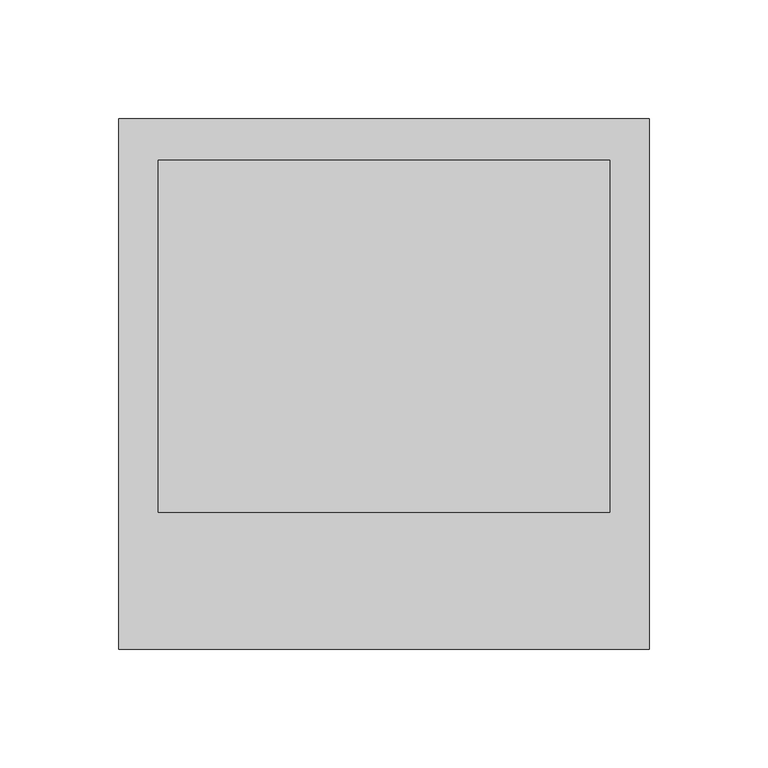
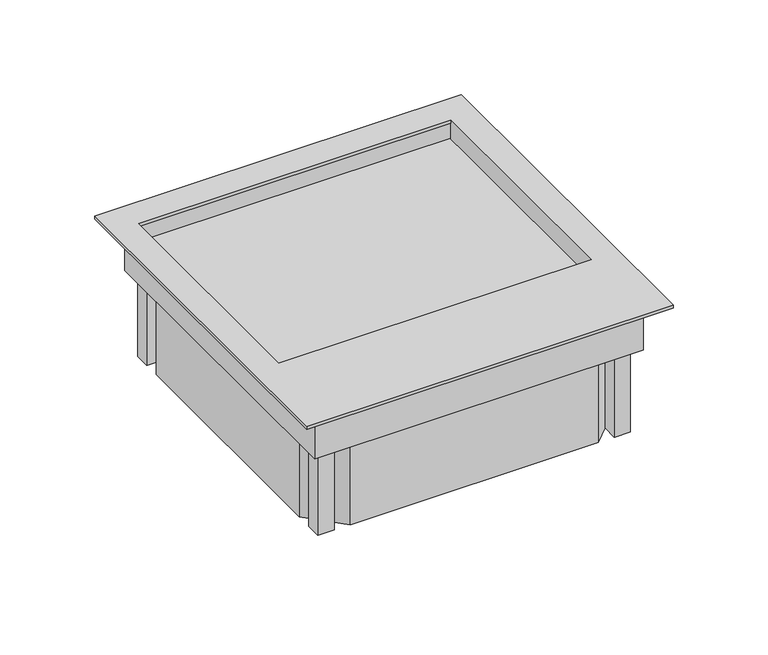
"""IFC4 building model written with IfcOpenShell, lengths in millimetres: proxy geometry, Electrical_Installation_Hager_VE-EE_Service-unit-VQ06-made-of-stainless-steel : Electrical_Installation_Hager_VE-EE_Service-unit-VQ06-made-of-stainless-steel."""

from ifc_helpers import new_model, si_unit, frame, origin, place, context, project, spatial, polyline, outline, extrude, faceted_brep, source, transform, mapped, element, save


def electrical_fixtures_3c529a4b(model_context):
    return source(origin(), model_context, "Body", "SolidModel", [
        faceted_brep([(100.0, 100.0, -30.0), (100.0, -100.0, -30.0), (-100.0, -100.0, -30.0), (-100.0, 100.0, -30.0), (95.0, -85.25, -30.0), (95.0, 85.25, -30.0), (95.0, 95.0, -30.0), (85.25, 95.0, -30.0), (-85.25, 95.0, -30.0), (-95.0, 95.0, -30.0), (-95.0, 85.25, -30.0), (-95.0, -85.25, -30.0), (-95.0, -95.0, -30.0), (-85.25, -95.0, -30.0), (85.25, -95.0, -30.0), (95.0, -95.0, -30.0), (-100.0, 100.0, 0.0), (100.0, 100.0, 0.0), (-100.0, -100.0, 0.0), (100.0, -100.0, 0.0), (95.0, 95.0, -30.0), (95.0, 95.0, 0.0), (-95.0, 95.0, 0.0), (-95.0, 95.0, -30.0), (95.0, -95.0, -10.0), (-95.0, -95.0, -10.0), (-95.0, -53.875, -10.0), (95.0, -53.875, -10.0), (95.0, -95.0, -30.0), (-95.0, -95.0, -30.0), (111.5, 111.5, 2.0), (-111.5, 111.5, 2.0), (-111.5, -111.5, 2.0), (111.5, -111.5, 2.0), (95.0, 94.0, 2.0), (95.0, -53.875, 2.0), (-95.0, -53.875, 2.0), (-95.0, 94.0, 2.0), (95.0, 94.0, 0.0), (-95.0, 94.0, 0.0), (111.5, 111.5, 0.0), (111.5, -111.5, 0.0), (-111.5, -111.5, 0.0), (-111.5, 111.5, 0.0), (-85.25, 85.25, -30.0), (85.25, 85.25, -30.0), (-85.25, -85.25, -30.0), (85.25, -85.25, -30.0), (-85.25, 95.0, -84.0), (-85.25, 85.25, -84.0), (-95.0, 85.25, -84.0), (-95.0, 95.0, -84.0), (95.0, 95.0, -84.0), (95.0, 85.25, -84.0), (85.25, 85.25, -84.0), (85.25, 95.0, -84.0), (-85.25, -95.0, -84.0), (-95.0, -95.0, -84.0), (-95.0, -85.25, -84.0), (-85.25, -85.25, -84.0), (95.0, -95.0, -84.0), (85.25, -95.0, -84.0), (85.25, -85.25, -84.0), (95.0, -85.25, -84.0)], [[[0, 1, 2, 3], [4, 5, 6, 7, 8, 9, 10, 11, 12, 13, 14, 15]], [[0, 3, 16, 17]], [[3, 2, 18, 16]], [[2, 1, 19, 18]], [[1, 0, 17, 19]], [[20, 21, 22, 23, 8, 7]], [[24, 25, 26, 27]], [[25, 24, 28, 14, 13, 29]], [[30, 31, 32, 33], [34, 35, 36, 37]], [[38, 39, 22, 21]], [[40, 41, 42, 43], [17, 16, 18, 19]], [[34, 37, 39, 38]], [[37, 36, 26, 25, 29, 11, 10, 23, 22, 39]], [[36, 35, 27, 26]], [[35, 34, 38, 21, 20, 5, 4, 28, 24, 27]], [[31, 30, 40, 43]], [[32, 31, 43, 42]], [[33, 32, 42, 41]], [[30, 33, 41, 40]], [[10, 44, 8, 23]], [[7, 45, 5, 20]], [[13, 46, 11, 29]], [[4, 47, 14, 28]], [[48, 49, 50, 51]], [[52, 53, 54, 55]], [[56, 57, 58, 59]], [[60, 61, 62, 63]], [[48, 51, 9, 8]], [[51, 50, 10, 9]], [[44, 10, 50, 49]], [[8, 44, 49, 48]], [[52, 55, 7, 6]], [[45, 7, 55, 54]], [[5, 45, 54, 53]], [[53, 52, 6, 5]], [[46, 13, 56, 59]], [[11, 46, 59, 58]], [[58, 57, 12, 11]], [[57, 56, 13, 12]], [[60, 63, 4, 15]], [[47, 4, 63, 62]], [[14, 47, 62, 61]], [[61, 60, 15, 14]]]),
        extrude(outline(polyline([(-95.0, -75.5), (-95.0, 75.5), (-75.5, 95.0), (75.5, 95.0), (95.0, 75.5), (95.0, -75.5), (75.5, -95.0), (-75.5, -95.0), (-95.0, -75.5)]), holes=[polyline([(-90.0, -73.4289322), (-73.4289322, -90.0), (73.4289322, -90.0), (90.0, -73.4289322), (90.0, 73.4289322), (73.4289322, 90.0), (-73.4289322, 90.0), (-90.0, 73.4289322), (-90.0, -73.4289322)])]), frame((0.0, 0.0, -84.0), z_axis=(0.0, 0.0, 1.0), x_axis=(1.0, 0.0, 0.0)), (0.0, 0.0, 1.0), 54.0),
        extrude(outline(polyline([(-95.0, -95.0), (-95.0, 95.0), (95.0, 95.0), (95.0, -95.0), (-95.0, -95.0)])), frame((0.0, 0.0, -15.0), z_axis=(0.0, 0.0, 1.0), x_axis=(1.0, 0.0, 0.0)), (0.0, 0.0, 1.0), 5.0),
    ])


if __name__ == "__main__":
    model = new_model("IFC4")
    model_context = context("Model", 3, world=origin())
    ifc_project = project(units=[si_unit("LENGTHUNIT", "METRE", prefix="MILLI")], contexts=[model_context])
    site = spatial("IfcSite", under=ifc_project)
    building = spatial("IfcBuilding", under=site)
    placement = place(None, origin())
    electrical_fixtures_shape = electrical_fixtures_3c529a4b(model_context)
    element("IfcBuildingElementProxy", 1, Name="Electrical_Installation_Hager_VE-EE_Service-unit-VQ06-made-of-stainless-steel : Electrical_Installation_Hager_VE-EE_Service-unit-VQ06-made-of-stainless-steel", ObjectType="Electrical_Installation_Hager_VE-EE_Service-unit-VQ06-made-of-stainless-steel : Electrical_Installation_Hager_VE-EE_Service-unit-VQ06-made-of-stainless-steel", at=placement, inside=building, context=model_context, shape_type="MappedRepresentation", body=[
        mapped(electrical_fixtures_shape, transform((0.0, 0.0, 0.0), x_axis=(1.0, 0.0, 0.0), y_axis=(0.0, 1.0, 0.0), z_axis=(0.0, 0.0, 1.0))),
    ])
    save(model, "model.ifc")
